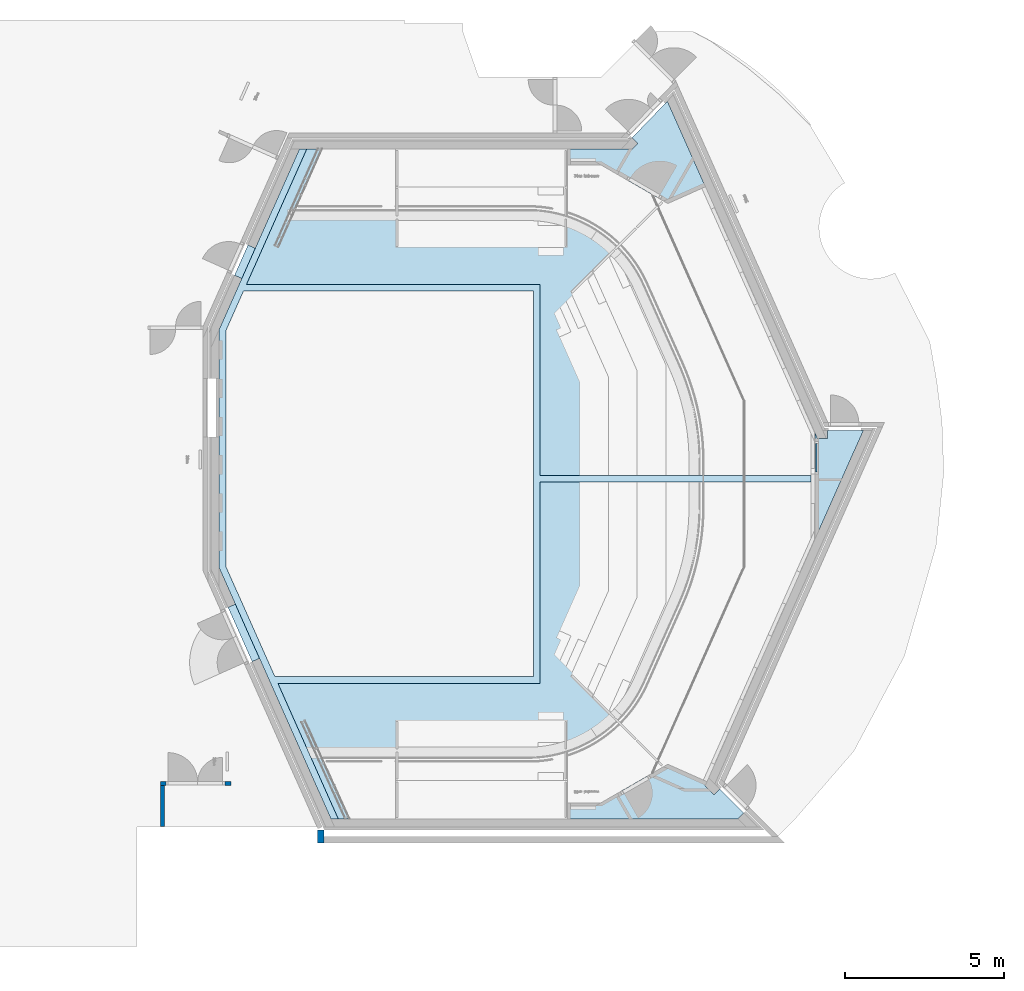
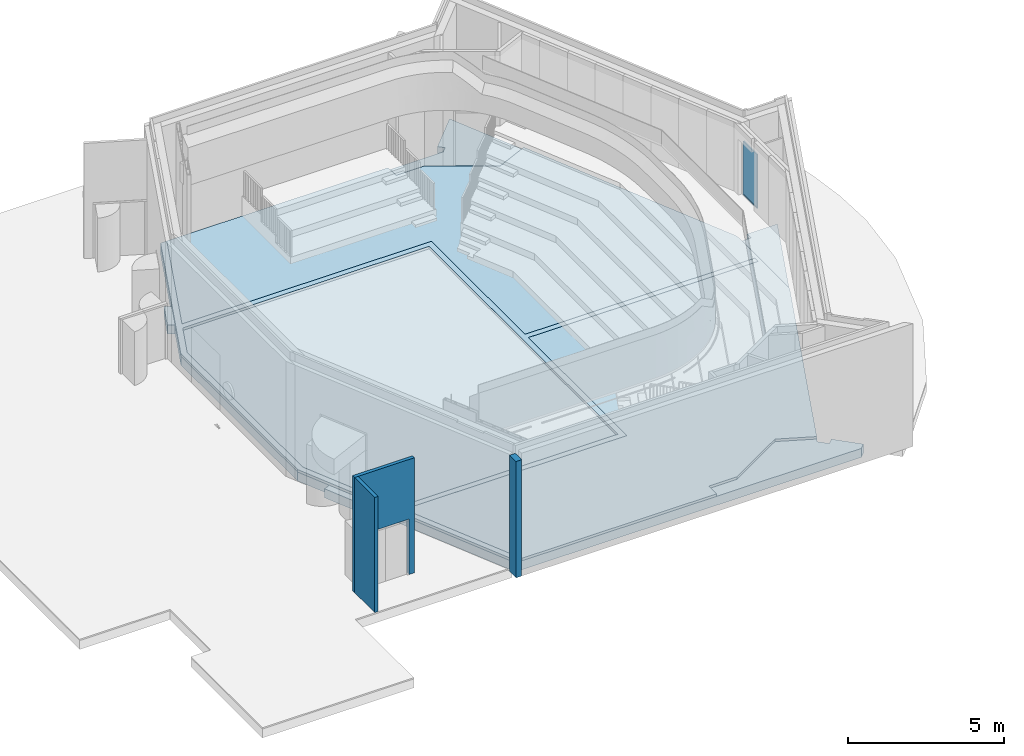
# One storey, part 6 of 19: 3 slabs, 3 walls, 1 plate, 2 openings, 1 element without a shape of its own.
"""IFC2X3 building model written with IfcOpenShell, lengths in millimetres."""

from ifc_helpers import new_model, entity, si_unit, converted_unit, derived_unit, direction, frame, frame_2d, origin, origin_2d_with_axis, place, context, subcontext, project, spatial, polyline, rectangle, outline, extrude, source, transform, mapped, material, material_list, layer, layer_set, layer_usage, type_object, type_shapes, element, aggregate, save


model = new_model("IFC2X3")

# Units and contexts
model_context = context("Model", 3, precision=0.01, world=origin(), true_north=direction((6.123031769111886e-17, 1.0)))
body_context = subcontext(model_context, "Body", "Model", "MODEL_VIEW")
ifc_project = project(units=[si_unit("LENGTHUNIT", "METRE", prefix="MILLI"), si_unit("AREAUNIT", "SQUARE_METRE"), si_unit("VOLUMEUNIT", "CUBIC_METRE"), converted_unit("PLANEANGLEUNIT", "DEGREE", entity("IfcRatioMeasure", 0.017453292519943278), si_unit("PLANEANGLEUNIT", "RADIAN"), dimensions=[0, 0, 0, 0, 0, 0, 0]), si_unit("MASSUNIT", "GRAM", prefix="KILO"), derived_unit("MASSDENSITYUNIT", [(si_unit("MASSUNIT", "GRAM", prefix="KILO"), 1), (si_unit("LENGTHUNIT", "METRE"), -3)]), derived_unit("MOMENTOFINERTIAUNIT", [(si_unit("LENGTHUNIT", "METRE"), 4)]), si_unit("TIMEUNIT", "SECOND"), si_unit("FREQUENCYUNIT", "HERTZ"), si_unit("THERMODYNAMICTEMPERATUREUNIT", "DEGREE_CELSIUS"), derived_unit("THERMALTRANSMITTANCEUNIT", [(si_unit("MASSUNIT", "GRAM", prefix="KILO"), 1), (si_unit("THERMODYNAMICTEMPERATUREUNIT", "KELVIN"), -1), (si_unit("TIMEUNIT", "SECOND"), -3)]), derived_unit("VOLUMETRICFLOWRATEUNIT", [(si_unit("LENGTHUNIT", "METRE"), 3), (si_unit("TIMEUNIT", "SECOND"), -1)]), derived_unit("MASSFLOWRATEUNIT", [(si_unit("MASSUNIT", "GRAM", prefix="KILO"), 1), (si_unit("TIMEUNIT", "SECOND"), -1)]), derived_unit("ROTATIONALFREQUENCYUNIT", [(si_unit("TIMEUNIT", "SECOND"), -1)]), si_unit("ELECTRICCURRENTUNIT", "AMPERE"), si_unit("ELECTRICVOLTAGEUNIT", "VOLT"), si_unit("POWERUNIT", "WATT"), si_unit("FORCEUNIT", "NEWTON", prefix="KILO"), si_unit("ILLUMINANCEUNIT", "LUX"), si_unit("LUMINOUSFLUXUNIT", "LUMEN"), si_unit("LUMINOUSINTENSITYUNIT", "CANDELA"), derived_unit("USERDEFINED", [(si_unit("MASSUNIT", "GRAM", prefix="KILO"), -1), (si_unit("LENGTHUNIT", "METRE"), -2), (si_unit("TIMEUNIT", "SECOND"), 3), (si_unit("LUMINOUSFLUXUNIT", "LUMEN"), 1)]), derived_unit("SOUNDPOWERUNIT", [(si_unit("MASSUNIT", "GRAM", prefix="KILO"), 1), (si_unit("LENGTHUNIT", "METRE"), 2), (si_unit("TIMEUNIT", "SECOND"), -3)]), derived_unit("SOUNDPRESSUREUNIT", [(si_unit("MASSUNIT", "GRAM", prefix="KILO"), 1), (si_unit("LENGTHUNIT", "METRE"), -1), (si_unit("TIMEUNIT", "SECOND"), -2)]), derived_unit("LINEARVELOCITYUNIT", [(si_unit("LENGTHUNIT", "METRE"), 1), (si_unit("TIMEUNIT", "SECOND"), -1)]), si_unit("PRESSUREUNIT", "PASCAL"), derived_unit("USERDEFINED", [(si_unit("LENGTHUNIT", "METRE"), -2), (si_unit("MASSUNIT", "GRAM", prefix="KILO"), 1), (si_unit("TIMEUNIT", "SECOND"), -2)]), derived_unit("LINEARFORCEUNIT", [(si_unit("MASSUNIT", "GRAM", prefix="KILO"), 1), (si_unit("LENGTHUNIT", "METRE"), 1), (si_unit("TIMEUNIT", "SECOND"), -2), (si_unit("LENGTHUNIT", "METRE"), -1)]), derived_unit("PLANARFORCEUNIT", [(si_unit("MASSUNIT", "GRAM", prefix="KILO"), 1), (si_unit("LENGTHUNIT", "METRE"), 1), (si_unit("TIMEUNIT", "SECOND"), -2), (si_unit("LENGTHUNIT", "METRE"), -2)])], contexts=[model_context])

# Site, building, storey
site_placement = place(None, frame((-10000.0, -10000.0, 0.0)))
site = spatial("IfcSite", under=ifc_project, at=site_placement, Name="Default", CompositionType="ELEMENT")
building_placement = place(site_placement, origin())
building = spatial("IfcBuilding", under=site, at=building_placement, CompositionType="ELEMENT")
storey_placement = place(building_placement, frame((0.0, 0.0, 4200.0)))
storey = spatial("IfcBuildingStorey", under=building, at=storey_placement, Name="01 1e verdieping", CompositionType="ELEMENT", Elevation=4200.000000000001)

# Slab
ifc_material_1 = material(Name="Hout - Keroewing")
ifc_layer_1 = layer(ifc_material_1, 22.0)
ifc_material_2 = material(Name="Regelwerk")
ifc_layer_2 = layer(ifc_material_2, 65.0)
ifc_material_3 = material(Name="Default")
ifc_layer_3 = layer(ifc_material_3, 10.0)
ifc_layer_set_1 = layer_set([ifc_layer_1, ifc_layer_2, ifc_layer_3], Name="Floor:NLRS_43_FL_parketvloer zaal 97mm_ags")
ifc_layer_usage_1 = layer_usage(ifc_layer_set_1, "AXIS3", "POSITIVE", 0.0)
slab_type_1 = type_object("IfcSlabType", Name="Floor:NLRS_43_FL_parketvloer zaal 97mm_ags", PredefinedType="FLOOR")
slab_1_placement = place(storey_placement, frame((25985.0, 28125.0, -72.0)))
element("IfcSlab", 1, at=slab_1_placement, inside=storey, type_object=slab_type_1, material=ifc_layer_usage_1, Name="Floor:NLRS_43_FL_parketvloer zaal 97mm_ags", ObjectType="Floor:NLRS_43_FL_parketvloer zaal 97mm_ags", PredefinedType="FLOOR", context=body_context, shape_type="SweptSolid", body=[
    extrude(outline(polyline([(-1480.0, 10513.500000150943), (-1480.0, 10013.500000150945), (-2527.2200422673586, 10013.500000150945), (-4628.315048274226, 8800.432232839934), (-5811.717335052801, 9327.150761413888), (-9245.0, 1615.8716404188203), (-9245.0, -1745.4592929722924), (-5859.871043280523, -9348.583414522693), (-4628.315048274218, -8800.432233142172), (-2527.2200422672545, -10013.50000045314), (-1480.0, -10013.50000045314), (-1480.0, -10513.50000015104), (5716.109261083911, -10513.500000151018), (7609.889474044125, -6260.0), (-625.0, -6260.0), (-625.0, 56.500000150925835), (-9120.0, 56.50000015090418), (-9120.0, 266.5000001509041), (-625.0, 266.50000015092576), (-625.0, 6260.0), (8596.43407975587, 6260.0), (6702.653866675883, 10513.500000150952), (-1480.0, 10513.500000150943)])), frame((9245.0, 10513.50000015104, 97.0), z_axis=(0.0, 0.0, -1.0), x_axis=(-1.0, 0.0, 0.0)), (0.0, 0.0, 1.0), 97.00000000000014),
])

# Slab, opening
ifc_layer_usage_2 = layer_usage(ifc_layer_set_1, "AXIS3", "POSITIVE", 0.0)
slab_type_2 = type_object("IfcSlabType", Name="Floor:NLRS_43_FL_parketvloer zaal 97mm_ags", PredefinedType="FLOOR", material=ifc_layer_set_1)
slab_2_placement = place(storey_placement, frame((25775.0, 28125.0, -72.0)))
slab_2 = element("IfcSlab", 2, at=slab_2_placement, inside=storey, type_object=slab_type_2, material=ifc_layer_usage_2, Name="Floor:NLRS_43_FL_parketvloer zaal 97mm_ags", ObjectType="Floor:NLRS_43_FL_parketvloer zaal 97mm_ags", PredefinedType="FLOOR", context=body_context, shape_type="SweptSolid", body=[
    extrude(outline(polyline([(-792.5000001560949, 6260.0), (-792.5000001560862, 266.5000001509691), (-9287.500000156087, 266.5000001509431), (-9287.500000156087, 56.50000015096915), (-792.5000001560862, 56.50000015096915), (-792.5000001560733, -6260.0), (7442.389474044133, -6260.0), (5548.609261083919, -10513.500000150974), (5778.482879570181, -10513.500000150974), (9287.500000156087, -2632.1185070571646), (9287.50000015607, 4847.933970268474), (6765.0274851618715, 10513.500000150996), (6535.153866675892, 10513.500000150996), (8428.93407975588, 6260.0), (-792.5000001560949, 6260.0)])), frame((9287.500000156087, 10513.500000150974, 97.0), z_axis=(0.0, 0.0, -1.0), x_axis=(-1.0, 0.0, 0.0)), (0.0, 0.0, 1.0), 97.00000000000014),
])
opening_1_placement = place(slab_2_placement, frame((3779.4467332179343, 10882.80257725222, 97.0)))
element("IfcOpeningElement", 3, at=opening_1_placement, cuts=slab_2, Name="Floor:NLRS_43_FL_parketvloer zaal 97mm_ags:2", ObjectType="Opening", context=body_context, shape_type="SweptSolid", body=[
    extrude(outline(polyline([(-5680.697422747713, -6090.55326709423), (6419.302577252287, -6090.553267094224), (6419.30257725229, 2027.8342310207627), (2956.7842062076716, 3569.446733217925), (-4433.994515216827, 3569.4467332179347), (-5680.697422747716, 3014.3788367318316), (-5680.697422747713, -6090.55326709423)])), frame((0.0, 0.0, 0.0), z_axis=(0.0, 0.0, -1.0), x_axis=(0.0, -1.0, 0.0)), (0.0, 0.0, 1.0), 97.00000000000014),
])

# Curtain wall, plate
curtain_wall_type = type_object("IfcCurtainWallType", Name="Curtain Wall:NLRS_32_CWA_houten binnenkozijnen ts90_ags", PredefinedType="NOTDEFINED")
curtain_wall_placement = place(storey_placement, frame((0.0, 0.0, -4200.0)))
curtain_wall = element("IfcCurtainWall", 4, at=curtain_wall_placement, inside=storey, type_object=curtain_wall_type, Name="Curtain Wall:NLRS_32_CWA_houten binnenkozijnen ts90_ags", ObjectType="Curtain Wall:NLRS_32_CWA_houten binnenkozijnen ts90_ags")
ifc_material_4 = material(Name="NLRS_glas")
ifc_material_5 = material(Name="Hout - Meranti")
ifc_material_list_1 = material_list([ifc_material_4, ifc_material_5])
ifc_material_list_2 = material_list([ifc_material_4, ifc_material_5])
plate_type = type_object("IfcPlateType", Name="NLRS_32_CWP_schuifdeur_ags:Schuifdeur", PredefinedType="CURTAIN_PANEL", material=ifc_material_list_2)
shared_shape = source(origin(), body_context, "Body", "SweptSolid", [
    extrude(rectangle(XDim=25.0, YDim=795.9999999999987, at=origin_2d_with_axis()), frame((0.0, 22.50000000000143, 45.0), z_axis=(0.0, 0.0, 1.0), x_axis=(0.0, 1.0, 0.0)), (0.0, 0.0, 1.0), 2013.0000000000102),
    extrude(outline(polyline([(-1051.5000000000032, -443.0), (1051.5000000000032, -443.0), (1051.500000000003, 443.0), (-1051.5000000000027, 443.0), (-1051.5000000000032, -443.0)]), holes=[polyline([(1006.5000000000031, -398.0), (-1006.5000000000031, -398.0), (-1006.5000000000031, 398.0), (1006.5000000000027, 398.0), (1006.5000000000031, -398.0)])]), frame((0.0, 0.0, 1051.4999999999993), z_axis=(0.0, 1.0, 0.0), x_axis=(0.0, 0.0, -1.0)), (0.0, 0.0, 1.0), 45.0),
])
type_shapes(plate_type, [shared_shape])
plate_placement = place(curtain_wall_placement, frame((44537.49999999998, 39457.97902798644, 6045.0), z_axis=(0.0, 0.0, 1.0), x_axis=(0.0, 1.0, 0.0)))
plate = element("IfcPlate", 5, at=plate_placement, type_object=plate_type, material=ifc_material_list_1, Name="NLRS_32_CWP_schuifdeur_ags:Schuifdeur", ObjectType="NLRS_32_CWP_schuifdeur_ags:Schuifdeur", context=body_context, shape_type="MappedRepresentation", body=[
    mapped(shared_shape, transform((0.0, 0.0, 0.0), scale=1.0)),
])
aggregate(curtain_wall, [plate])

# Slab
ifc_material_6 = material(Name="NLRS_beton ihwg")
ifc_layer_4 = layer(ifc_material_6, 350.0)
ifc_layer_set_2 = layer_set([ifc_layer_4], Name="Floor:NLRS_23_FL_beton 350mm_ags")
ifc_layer_usage_3 = layer_usage(ifc_layer_set_2, "AXIS3", "POSITIVE", 0.0)
slab_type_3 = type_object("IfcSlabType", Name="Floor:NLRS_23_FL_beton 350mm_ags", PredefinedType="FLOOR", material=ifc_layer_set_2)
slab_3_placement = place(storey_placement, origin())
element("IfcSlab", 6, at=slab_3_placement, inside=storey, type_object=slab_type_3, material=ifc_layer_usage_3, Name="Floor:NLRS_23_FL_beton 350mm_ags", ObjectType="Floor:NLRS_23_FL_beton 350mm_ags", PredefinedType="FLOOR", context=body_context, shape_type="SweptSolid", body=[
    extrude(outline(polyline([(-3112.8679792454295, -8879.510030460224), (4367.184498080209, -8879.510030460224), (5965.889048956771, -8167.720905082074), (6067.573209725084, -8396.107269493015), (7017.660485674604, -7973.1011606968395), (6915.976324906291, -7744.7147962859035), (10032.750527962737, -6357.037515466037), (10032.750527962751, 4091.7536466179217), (10206.739590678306, 4259.639273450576), (10380.332657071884, 4079.735278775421), (11532.353810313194, 5191.34419497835), (948.7295559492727, 9903.477307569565), (948.7295559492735, 10224.063584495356), (1198.7295559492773, 10224.063584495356), (1198.7295559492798, 11345.370755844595), (-9959.612314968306, 6377.35687441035), (-10241.180750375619, 6658.925309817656), (-10064.404055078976, 6835.702005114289), (-10817.472777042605, 7588.770727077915), (-10994.249472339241, 7411.99403178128), (-10994.249472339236, -5370.4929098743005), (-5958.562079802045, -7612.525387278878), (-6060.246240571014, -7840.91175168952), (-4356.483962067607, -8599.475591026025), (-4254.799801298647, -8371.089226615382), (-3112.8679792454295, -8879.510030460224)])), frame((34654.51003014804, 39119.24947203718, -72.0), z_axis=(0.0, 0.0, -1.0), x_axis=(0.0, 1.0, 0.0)), (0.0, 0.0, 1.0), 350.0),
])

# Wall
ifc_material_7 = material(Name="NLRS_metselwerk schoonwerk")
ifc_layer_5 = layer(ifc_material_7, 210.0)
ifc_layer_set_3 = layer_set([ifc_layer_5], Name="Basic Wall:NLRS_21_WA_metselwerk 210mm_ags")
ifc_layer_usage_4 = layer_usage(ifc_layer_set_3, "AXIS2", "NEGATIVE", 105.0)
wall_type_1 = type_object("IfcWallType", Name="Basic Wall:NLRS_21_WA_metselwerk 210mm_ags", PredefinedType="STANDARD", material=ifc_layer_set_3)
wall_1_placement = place(storey_placement, frame((28963.08237584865, 27770.014353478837, -50.0), z_axis=(0.0, 0.0, 1.0), x_axis=(0.0, -1.0, 0.0)))
element("IfcWallStandardCase", 7, at=wall_1_placement, inside=storey, type_object=wall_type_1, material=ifc_layer_usage_4, Name="Basic Wall:NLRS_21_WA_metselwerk 210mm_ags", ObjectType="Basic Wall:NLRS_21_WA_metselwerk 210mm_ags", context=body_context, shape_type="SweptSolid", body=[
    extrude(rectangle(XDim=405.0143537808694, YDim=209.9999999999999, at=frame_2d((202.5071768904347, 2.1671553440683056e-12), x_axis=(-1.0, 0.0))), origin(), (0.0, 0.0, 1.0), 4549.999999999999),
])

# Wall, opening
ifc_material_8 = material(Name="NLRS_gipsplaat")
ifc_layer_6 = layer(ifc_material_8, 12.5)
ifc_layer_7 = layer(ifc_material_8, 12.5)
ifc_material_9 = material(Name="NLRS_aluminium C-profielen met isolatie")
ifc_layer_8 = layer(ifc_material_9, 75.0)
ifc_layer_9 = layer(ifc_material_8, 12.5)
ifc_layer_10 = layer(ifc_material_8, 12.5)
ifc_layer_set_4 = layer_set([ifc_layer_6, ifc_layer_7, ifc_layer_8, ifc_layer_9, ifc_layer_10], Name="Basic Wall:NLRS_22_WA_ms-wand gips iso gips 125mm 25-75-25_ags")
ifc_layer_usage_5 = layer_usage(ifc_layer_set_4, "AXIS2", "NEGATIVE", 62.50000000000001)
wall_type_2 = type_object("IfcWallType", Name="Basic Wall:NLRS_22_WA_ms-wand gips iso gips 125mm 25-75-25_ags", PredefinedType="STANDARD", material=ifc_layer_set_4)
wall_2_placement = place(storey_placement, frame((26146.14626943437, 29237.499999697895, 0.0), z_axis=(0.0, 0.0, 1.0), x_axis=(-1.0, 0.0, 0.0)))
wall_2 = element("IfcWallStandardCase", 8, at=wall_2_placement, inside=storey, type_object=wall_type_2, material=ifc_layer_usage_5, Name="Basic Wall:NLRS_22_WA_ms-wand gips iso gips 125mm 25-75-25_ags", ObjectType="Basic Wall:NLRS_22_WA_ms-wand gips iso gips 125mm 25-75-25_ags", context=body_context, shape_type="SweptSolid", body=[
    extrude(rectangle(XDim=2209.1457879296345, YDim=125.0000000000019, at=frame_2d((1104.572893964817, -1.1333156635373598e-12), x_axis=(1.0, 0.0))), origin(), (0.0, 0.0, 1.0), 4499.999999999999),
])
opening_2_placement = place(wall_2_placement, origin())
element("IfcOpeningElement", 9, at=opening_2_placement, cuts=wall_2, Name="Basic Wall:NLRS_22_WA_ms-wand gips iso gips 125mm 25-75-25_ags", ObjectType="Opening", context=body_context, shape_type="SweptSolid", body=[
    extrude(rectangle(XDim=2170.0, YDim=1850.0000000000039, at=frame_2d((0.0, 2.2737367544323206e-13), x_axis=(0.0, 1.0))), frame((1118.7018701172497, -214.90000000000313, 1085.0), z_axis=(0.0, 1.0, 0.0), x_axis=(-1.0, 0.0, 0.0)), (0.0, 0.0, 1.0), 429.8000000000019),
])

# Wall
ifc_layer_usage_6 = layer_usage(ifc_layer_set_4, "AXIS2", "NEGATIVE", 62.50000000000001)
wall_3_placement = place(storey_placement, frame((23999.50048150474, 29175.0, 0.0), z_axis=(0.0, 0.0, 1.0), x_axis=(0.0, -1.0, 0.0)))
element("IfcWallStandardCase", 10, at=wall_3_placement, inside=storey, type_object=wall_type_2, material=ifc_layer_usage_6, Name="Basic Wall:NLRS_22_WA_ms-wand gips iso gips 125mm 25-75-25_ags", ObjectType="Basic Wall:NLRS_22_WA_ms-wand gips iso gips 125mm 25-75-25_ags", context=body_context, shape_type="SweptSolid", body=[
    extrude(rectangle(XDim=1287.8508597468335, YDim=125.0000000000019, at=frame_2d((643.9254298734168, -2.575717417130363e-12), x_axis=(-1.0, 0.0))), origin(), (0.0, 0.0, 1.0), 4499.999999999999),
])

save(model, "model.ifc")
